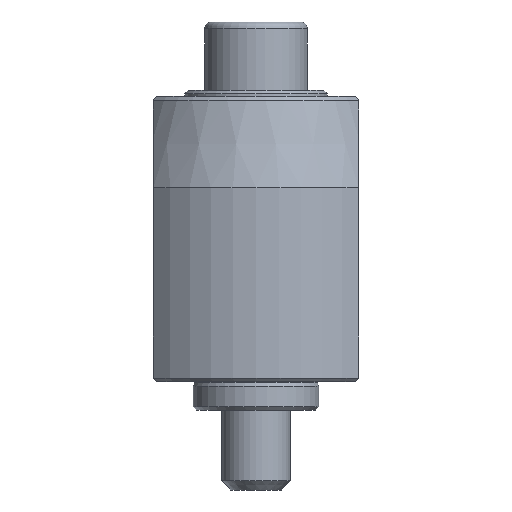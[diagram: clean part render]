
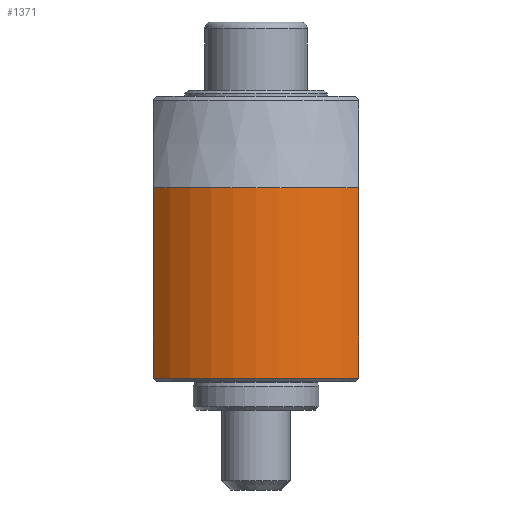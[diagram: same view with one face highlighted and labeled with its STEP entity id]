
A CAD part, left-side view. The second image highlights one B-rep face of the part: STEP entity #1371.
In plain terms, the highlighted cylindrical face has radius 24.5 mm (diameter 49 mm), a partial arc.
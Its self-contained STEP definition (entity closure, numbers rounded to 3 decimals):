
#1371=ADVANCED_FACE('',(#3261),#3263,.T.);
#3261=FACE_BOUND('',#3262,.T.);
#3262=EDGE_LOOP('',(#4530,#4531,#4532,#4533));
#3263=CYLINDRICAL_SURFACE('',#3264,24.5);
#3264=AXIS2_PLACEMENT_3D('',#3265,#3266,#3267);
#3265=CARTESIAN_POINT('',(0.,0.,0.));
#3266=DIRECTION('',(0.,0.,1.));
#3267=DIRECTION('',(1.,0.,0.));
#4530=ORIENTED_EDGE('',*,*,#5167,.T.);
#4531=ORIENTED_EDGE('',*,*,#5086,.T.);
#4532=ORIENTED_EDGE('',*,*,#5083,.F.);
#4533=ORIENTED_EDGE('',*,*,#5081,.T.);
#5081=EDGE_CURVE('',#5768,#5766,#5769,.F.);
#5083=EDGE_CURVE('',#5768,#5771,#5772,.T.);
#5086=EDGE_CURVE('',#5774,#5771,#5776,.T.);
#5167=EDGE_CURVE('',#5766,#5774,#5899,.T.);
#5766=VERTEX_POINT('',#8278);
#5768=VERTEX_POINT('',#8282);
#5769=LINE('',#8283,#8284);
#5771=VERTEX_POINT('',#8322);
#5772=CIRCLE('',#8323,24.5);
#5774=VERTEX_POINT('',#8363);
#5776=LINE('',#8367,#8368);
#5899=CIRCLE('',#9008,24.5);
#8278=CARTESIAN_POINT('',(-16.621,18.,5.6));
#8282=CARTESIAN_POINT('',(-16.621,18.,39.));
#8283=CARTESIAN_POINT('',(-16.621,18.,5.6));
#8284=VECTOR('',#8285,1.);
#8285=DIRECTION('',(0.,0.,1.));
#8322=CARTESIAN_POINT('',(-16.621,-18.,39.));
#8323=AXIS2_PLACEMENT_3D('',#8324,#8325,#8326);
#8324=CARTESIAN_POINT('',(0.,0.,39.));
#8325=DIRECTION('',(0.,0.,1.));
#8326=DIRECTION('',(-0.678,0.735,0.));
#8363=CARTESIAN_POINT('',(-16.621,-18.,5.6));
#8367=CARTESIAN_POINT('',(-16.621,-18.,5.6));
#8368=VECTOR('',#8369,1.);
#8369=DIRECTION('',(0.,0.,1.));
#9008=AXIS2_PLACEMENT_3D('',#9009,#9010,#9011);
#9009=CARTESIAN_POINT('',(0.,0.,5.6));
#9010=DIRECTION('',(0.,0.,1.));
#9011=DIRECTION('',(-0.678,0.735,0.));
